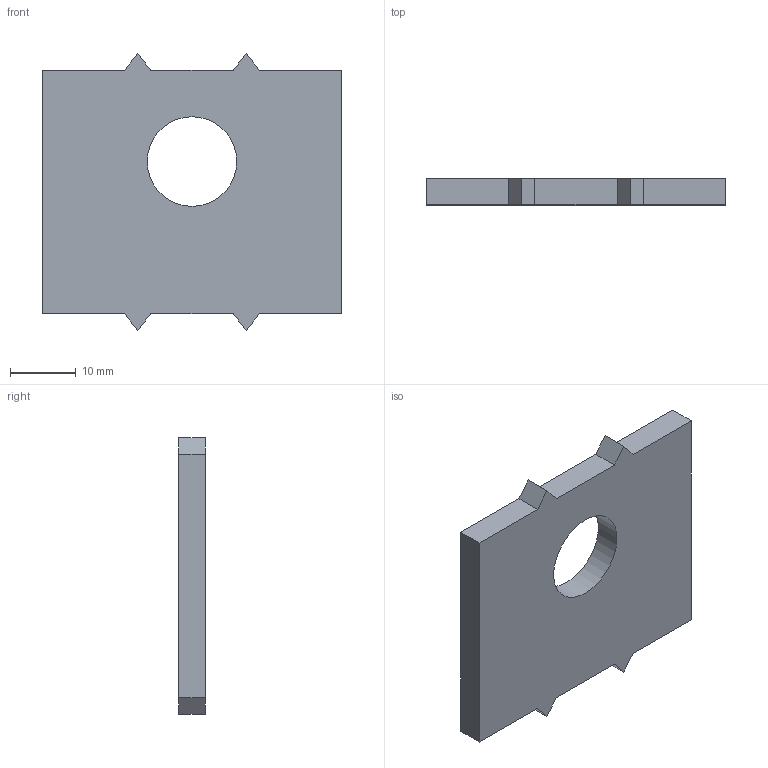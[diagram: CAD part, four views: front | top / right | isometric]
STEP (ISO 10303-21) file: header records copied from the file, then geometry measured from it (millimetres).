
FILE_DESCRIPTION(('FreeCAD Model'),'2;1');
FILE_NAME('Open CASCADE Shape Model','2024-06-26T11:40:23',('FreeCAD'),( 'FreeCAD'),'Open CASCADE STEP processor 7.6','FreeCAD','Unknown');
FILE_SCHEMA(('AUTOMOTIVE_DESIGN { 1 0 10303 214 1 1 1 1 }'));
Length unit declared in the file: millimetre
Products named in the file (1): Open CASCADE STEP translator 7.6 3
Bounding box: 45.5 x 4 x 42 mm (x, y, z)
Volume: 6232.9 mm3; surface area: 3985.8 mm2
Topology: 1 solids, 1 shells, 19 faces, 51 edges, 34 vertices
Faces by surface type: plane 18, cylinder 1
Full cylindrical faces by diameter (mm): 13.6 x1
Entity records: 601 total; most frequent: CARTESIAN_POINT 105, ORIENTED_EDGE 102, DIRECTION 93, EDGE_CURVE 51, LINE 49, VECTOR 49, VERTEX_POINT 34, AXIS2_PLACEMENT_3D 22
